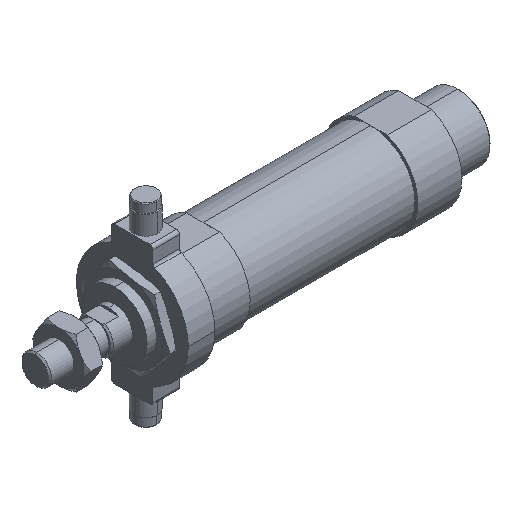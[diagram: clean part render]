
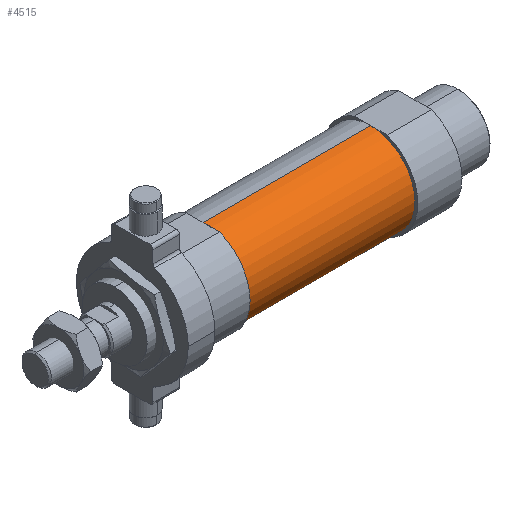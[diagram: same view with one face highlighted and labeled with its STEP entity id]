
A CAD part, isometric view. The second image highlights one B-rep face of the part: STEP entity #4515.
In plain terms, the highlighted cylindrical face has radius 15 mm (diameter 30 mm), a partial arc.
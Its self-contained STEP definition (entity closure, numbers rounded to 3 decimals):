
#36 = EDGE_CURVE ( 'NONE', #4170, #74, #4173, .T. ) ;
#74 = VERTEX_POINT ( 'NONE', #529 ) ;
#272 = ORIENTED_EDGE ( 'NONE', *, *, #3349, .T. ) ;
#333 = DIRECTION ( 'NONE',  ( -1., 0., 0. ) ) ;
#391 = DIRECTION ( 'NONE',  ( -1., 0., 0. ) ) ;
#523 = ORIENTED_EDGE ( 'NONE', *, *, #809, .T. ) ;
#529 = CARTESIAN_POINT ( 'NONE',  ( 57., 0., 15. ) ) ;
#597 = CARTESIAN_POINT ( 'NONE',  ( 57., 0., 0. ) ) ;
#809 = EDGE_CURVE ( 'NONE', #2453, #74, #2512, .T. ) ;
#837 = VECTOR ( 'NONE', #333, 1000. ) ;
#1061 = CARTESIAN_POINT ( 'NONE',  ( -6.469, 0., 15. ) ) ;
#1273 = FACE_OUTER_BOUND ( 'NONE', #3421, .T. ) ;
#1314 = ORIENTED_EDGE ( 'NONE', *, *, #3724, .F. ) ;
#1800 = CYLINDRICAL_SURFACE ( 'NONE', #2929, 15. ) ;
#1802 = CARTESIAN_POINT ( 'NONE',  ( -6.469, 0., -15. ) ) ;
#1938 = DIRECTION ( 'NONE',  ( 0., 0., 1. ) ) ;
#2356 = DIRECTION ( 'NONE',  ( 0., 0., 1. ) ) ;
#2426 = CARTESIAN_POINT ( 'NONE',  ( 114., 0., 0. ) ) ;
#2453 = VERTEX_POINT ( 'NONE', #3154 ) ;
#2484 = LINE ( 'NONE', #1802, #2523 ) ;
#2512 = LINE ( 'NONE', #1061, #837 ) ;
#2523 = VECTOR ( 'NONE', #4573, 1000. ) ;
#2540 = DIRECTION ( 'NONE',  ( -1., 0., 0. ) ) ;
#2569 = ORIENTED_EDGE ( 'NONE', *, *, #36, .F. ) ;
#2607 = AXIS2_PLACEMENT_3D ( 'NONE', #2426, #391, #2356 ) ;
#2624 = DIRECTION ( 'NONE',  ( 0., 0., 1. ) ) ;
#2929 = AXIS2_PLACEMENT_3D ( 'NONE', #3805, #4575, #2624 ) ;
#2941 = CARTESIAN_POINT ( 'NONE',  ( 57., 0., -15. ) ) ;
#3097 = CIRCLE ( 'NONE', #2607, 15. ) ;
#3154 = CARTESIAN_POINT ( 'NONE',  ( 114., 0., 15. ) ) ;
#3275 = VERTEX_POINT ( 'NONE', #4379 ) ;
#3349 = EDGE_CURVE ( 'NONE', #3275, #2453, #3097, .T. ) ;
#3421 = EDGE_LOOP ( 'NONE', ( #1314, #272, #523, #2569 ) ) ;
#3724 = EDGE_CURVE ( 'NONE', #3275, #4170, #2484, .T. ) ;
#3761 = AXIS2_PLACEMENT_3D ( 'NONE', #597, #2540, #1938 ) ;
#3805 = CARTESIAN_POINT ( 'NONE',  ( -6.469, 0., 0. ) ) ;
#4170 = VERTEX_POINT ( 'NONE', #2941 ) ;
#4173 = CIRCLE ( 'NONE', #3761, 15. ) ;
#4379 = CARTESIAN_POINT ( 'NONE',  ( 114., 0., -15. ) ) ;
#4515 = ADVANCED_FACE ( 'NONE', ( #1273 ), #1800, .T. ) ;
#4573 = DIRECTION ( 'NONE',  ( -1., 0., 0. ) ) ;
#4575 = DIRECTION ( 'NONE',  ( -1., 0., 0. ) ) ;
